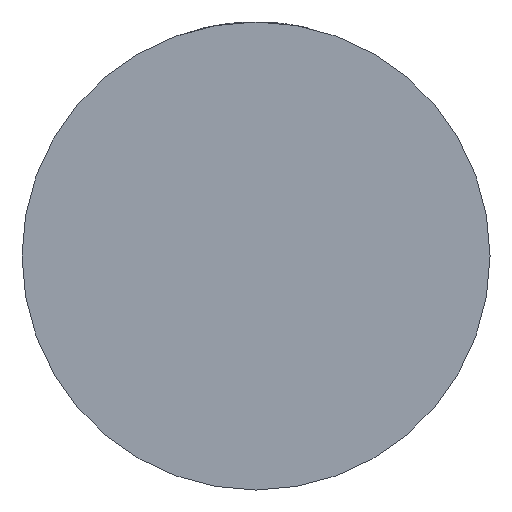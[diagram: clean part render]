
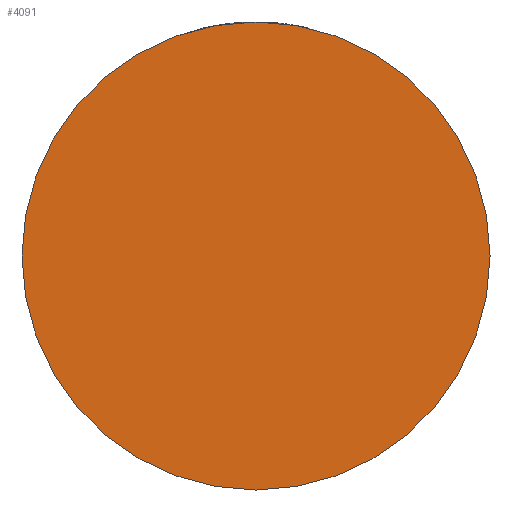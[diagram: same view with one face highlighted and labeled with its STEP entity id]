
A CAD part, front view. The second image highlights one B-rep face of the part: STEP entity #4091.
In plain terms, the highlighted planar face has unit normal (0, -1, 0).
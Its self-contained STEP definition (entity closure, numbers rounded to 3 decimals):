
#134 = EDGE_CURVE ( 'NONE', #3702, #3033, #531, .T. ) ;
#196 = DIRECTION ( 'NONE',  ( 0., -1., 0. ) ) ;
#215 = DIRECTION ( 'NONE',  ( 1., 0., 0. ) ) ;
#451 = EDGE_LOOP ( 'NONE', ( #2425, #725 ) ) ;
#531 = CIRCLE ( 'NONE', #4041, 40. ) ;
#578 = CARTESIAN_POINT ( 'NONE',  ( 0., -28., 0. ) ) ;
#725 = ORIENTED_EDGE ( 'NONE', *, *, #134, .T. ) ;
#1608 = FACE_OUTER_BOUND ( 'NONE', #451, .T. ) ;
#1696 = AXIS2_PLACEMENT_3D ( 'NONE', #2641, #2968, #3658 ) ;
#1995 = DIRECTION ( 'NONE',  ( 0., -1., 0. ) ) ;
#2298 = PLANE ( 'NONE',  #1696 ) ;
#2425 = ORIENTED_EDGE ( 'NONE', *, *, #3269, .T. ) ;
#2641 = CARTESIAN_POINT ( 'NONE',  ( 0., -28., 0. ) ) ;
#2968 = DIRECTION ( 'NONE',  ( 0., -1., 0. ) ) ;
#3011 = CARTESIAN_POINT ( 'NONE',  ( 0., -28., 0. ) ) ;
#3033 = VERTEX_POINT ( 'NONE', #3706 ) ;
#3131 = CIRCLE ( 'NONE', #3701, 40. ) ;
#3159 = CARTESIAN_POINT ( 'NONE',  ( 40., -28., 0. ) ) ;
#3269 = EDGE_CURVE ( 'NONE', #3033, #3702, #3131, .T. ) ;
#3658 = DIRECTION ( 'NONE',  ( 1., 0., 0. ) ) ;
#3701 = AXIS2_PLACEMENT_3D ( 'NONE', #578, #196, #215 ) ;
#3702 = VERTEX_POINT ( 'NONE', #3159 ) ;
#3706 = CARTESIAN_POINT ( 'NONE',  ( -40., -28., 0. ) ) ;
#4041 = AXIS2_PLACEMENT_3D ( 'NONE', #3011, #1995, #4071 ) ;
#4071 = DIRECTION ( 'NONE',  ( 1., 0., 0. ) ) ;
#4091 = ADVANCED_FACE ( 'NONE', ( #1608 ), #2298, .T. ) ;
